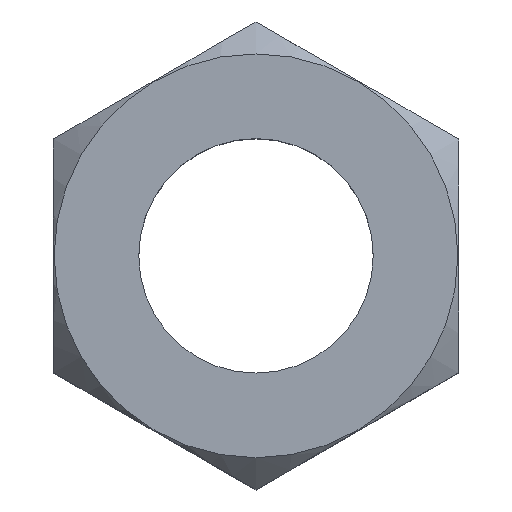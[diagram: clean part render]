
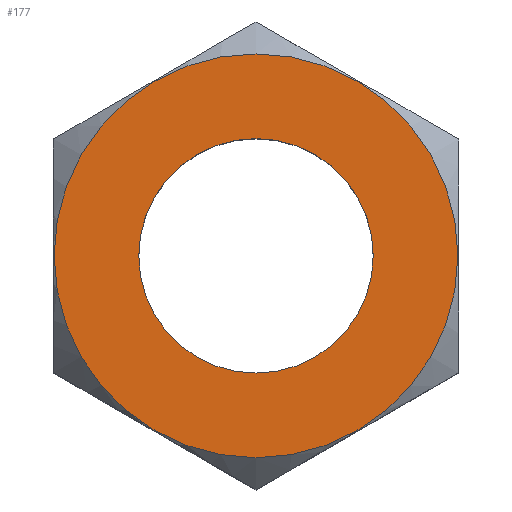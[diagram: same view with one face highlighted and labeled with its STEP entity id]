
A CAD part, top view. The second image highlights one B-rep face of the part: STEP entity #177.
In plain terms, the highlighted planar face has unit normal (0, 0, 1).
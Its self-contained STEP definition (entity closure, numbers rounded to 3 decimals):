
#33=PLANE('',#194);
#52=FACE_BOUND('',#78,.T.);
#63=FACE_OUTER_BOUND('',#77,.T.);
#77=EDGE_LOOP('',(#163));
#78=EDGE_LOOP('',(#164));
#81=CIRCLE('',#182,5.5);
#83=CIRCLE('',#185,9.47);
#85=VERTEX_POINT('',#236);
#93=VERTEX_POINT('',#265);
#101=EDGE_CURVE('',#85,#85,#81,.T.);
#109=EDGE_CURVE('',#93,#93,#83,.T.);
#163=ORIENTED_EDGE('',*,*,#109,.T.);
#164=ORIENTED_EDGE('',*,*,#101,.T.);
#177=ADVANCED_FACE('',(#63,#52),#33,.T.);
#182=AXIS2_PLACEMENT_3D('',#237,#200,#201);
#185=AXIS2_PLACEMENT_3D('',#266,#206,#207);
#194=AXIS2_PLACEMENT_3D('',#306,#230,#231);
#200=DIRECTION('center_axis',(0.,0.,-1.));
#201=DIRECTION('ref_axis',(1.,0.,0.));
#206=DIRECTION('center_axis',(0.,0.,1.));
#207=DIRECTION('ref_axis',(0.,1.,0.));
#230=DIRECTION('center_axis',(0.,0.,1.));
#231=DIRECTION('ref_axis',(1.,0.,0.));
#236=CARTESIAN_POINT('',(-5.5,0.,0.));
#237=CARTESIAN_POINT('Origin',(0.,0.,0.));
#265=CARTESIAN_POINT('',(0.,-9.47,0.));
#266=CARTESIAN_POINT('Origin',(0.,0.,0.));
#306=CARTESIAN_POINT('Origin',(0.,0.,0.));
